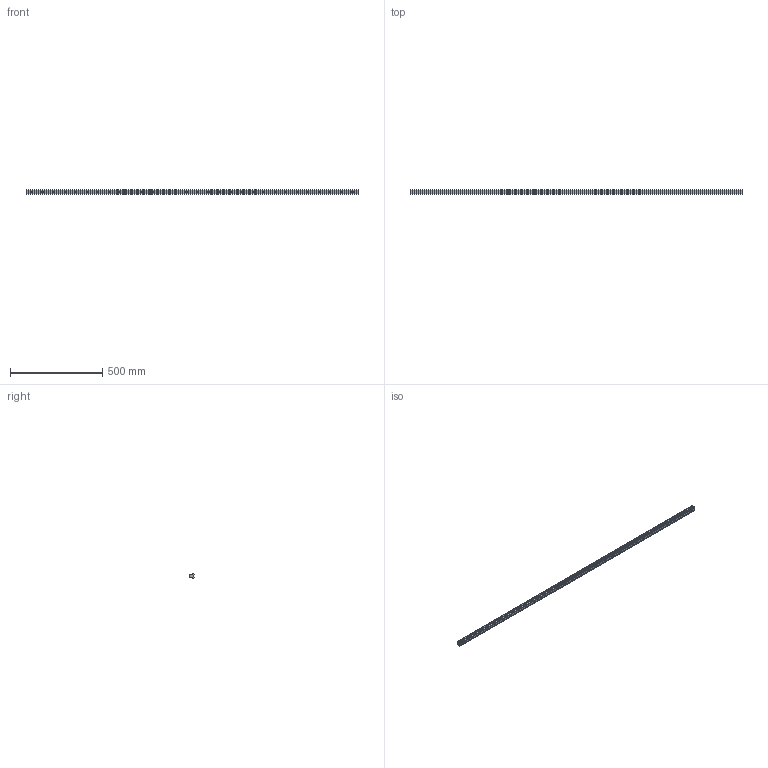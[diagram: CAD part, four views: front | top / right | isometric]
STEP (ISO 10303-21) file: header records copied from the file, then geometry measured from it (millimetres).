
FILE_DESCRIPTION (( 'STEP AP203' ), '1' );
FILE_NAME ('L1018.25R-1800.step', '2023-08-06T10:38:57', ( '' ), ( '' ), 'SwSTEP 2.0', 'SolidWorks 2019', '' );
FILE_SCHEMA (( 'CONFIG_CONTROL_DESIGN' ));
Length unit declared in the file: millimetre
Products named in the file (1): L1018.25R-1800
Bounding box: 1800 x 21.8 x 25 mm (x, y, z)
Volume: 748598.6 mm3; surface area: 179585.1 mm2
Topology: 1 solids, 1 shells, 299 faces, 681 edges, 384 vertices
Faces by surface type: cylinder 123, cone 120, plane 56
Entity records: 8018 total; most frequent: DIRECTION 1527, CARTESIAN_POINT 1305, ORIENTED_EDGE 1242, EDGE_CURVE 621, AXIS2_PLACEMENT_3D 606, VERTEX_POINT 384, EDGE_LOOP 359, LINE 315
